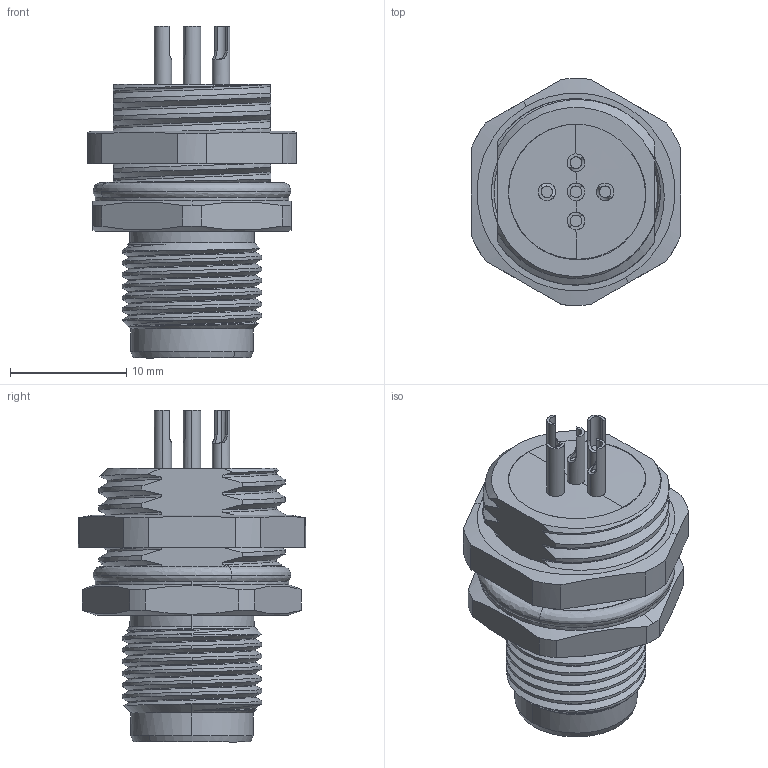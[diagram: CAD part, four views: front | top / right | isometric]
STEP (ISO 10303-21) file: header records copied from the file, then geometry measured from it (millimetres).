
FILE_DESCRIPTION (( 'STEP AP203' ), '1' );
FILE_NAME ('64SA61H.STEP', '2023-10-19T08:03:06', ( 'ADMIN' ), ( '' ), 'SwSTEP 2.0', 'SolidWorks 2016', '' );
FILE_SCHEMA (( 'CONFIG_CONTROL_DESIGN' ));
Length unit declared in the file: millimetre
Products named in the file (1): 64SA61H
Bounding box: 18 x 19.5 x 28.5 mm (x, y, z)
Volume: 3348.6 mm3; surface area: 2653.2 mm2
Topology: 1 solids, 1 shells, 472 faces, 1372 edges, 916 vertices
Faces by surface type: cylinder 160, plane 160, bspline 152
Entity records: 35823 total; most frequent: CARTESIAN_POINT 25461, ORIENTED_EDGE 2742, EDGE_CURVE 1371, DIRECTION 1232, VERTEX_POINT 916, B_SPLINE_CURVE_WITH_KNOTS 838, EDGE_LOOP 495, ADVANCED_FACE 472
